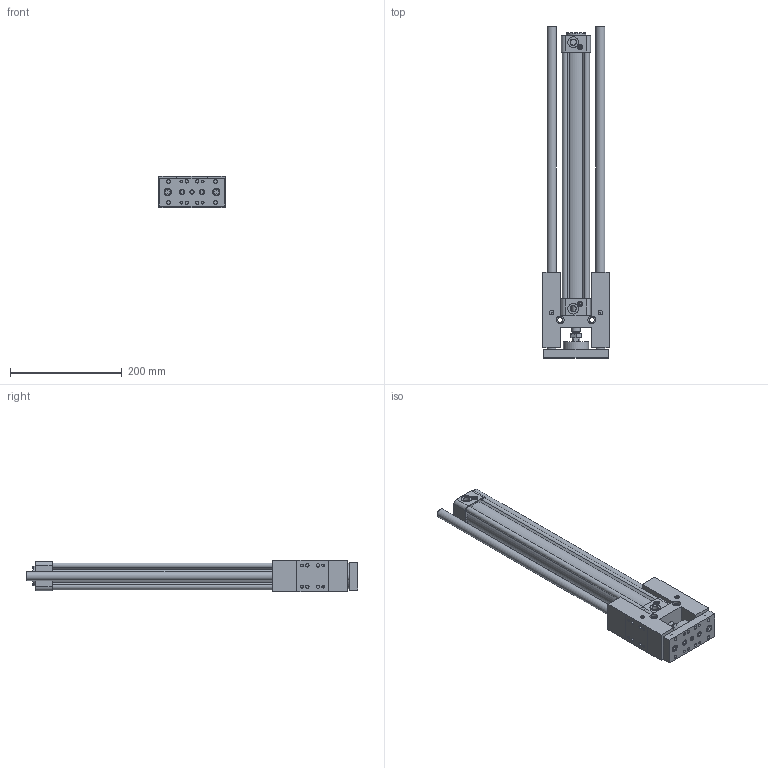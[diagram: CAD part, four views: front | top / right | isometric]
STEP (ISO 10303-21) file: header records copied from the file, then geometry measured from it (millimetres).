
FILE_DESCRIPTION((''),'2;1');
FILE_NAME('I:\3D電子目錄\氣缸\GHB(U)\GHB(U)\GHB(U)40\GHB(U)40x400.stp','2007-10-19T14:53:52',('Administrator'),(''),'Autodesk Inventor 11','Autodesk Inventor 11','');
FILE_SCHEMA(('AUTOMOTIVE_DESIGN { 1 0 10303 214 1 1 1 1 }'));
Length unit declared in the file: millimetre
Products named in the file (1): GHB(U)40
Bounding box: 119 x 593 x 56.2 mm (x, y, z)
Volume: 1321123.9 mm3; surface area: 362879.1 mm2
Topology: 17 solids, 17 shells, 779 faces, 1702 edges, 1054 vertices
Faces by surface type: plane 296, bspline 215, cylinder 170, cone 89, torus 9
Full cylindrical faces by diameter (mm): 2.6 x2, 4.9 x2, 4.917 x4, 5 x4, 5.5 x10, 6 x12, 6.5 x8, 6.8 x1, 7.8 x6, 8 x5, 9 x6, 9.5 x1, 9.9 x1, 10 x5, 10.2 x8, 12 x3, 13 x2, 16 x4, 18 x1, 19 x2, 21 x2, 35 x1, 40 x1, 45 x1
Entity records: 22134 total; most frequent: CARTESIAN_POINT 6597, DIRECTION 3108, ORIENTED_EDGE 2968, EDGE_CURVE 1484, AXIS2_PLACEMENT_3D 1218, EDGE_LOOP 1096, VERTEX_POINT 1022, FACE_OUTER_BOUND 779
